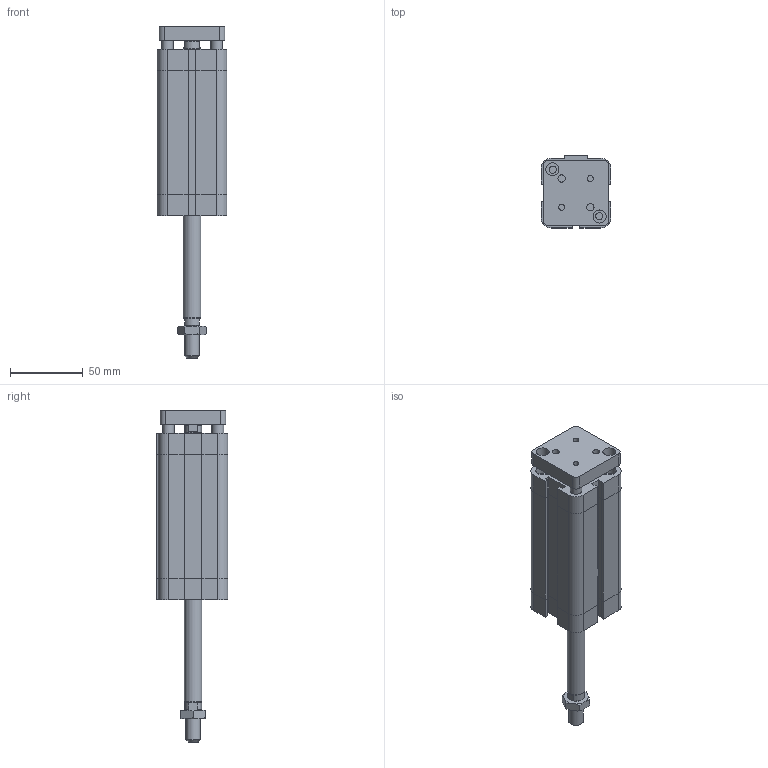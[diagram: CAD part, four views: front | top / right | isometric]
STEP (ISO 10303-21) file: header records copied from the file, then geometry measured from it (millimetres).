
FILE_DESCRIPTION((''),'2;1');
FILE_NAME('I:\Area Tecnica\Disegni\VARIE-3D\Componenti\EUROPE\15##_###_####_09_#\1581_32_0070_09_1.iam.stp','2009-04-20T15:45:00',(''),(''),'Autodesk Inventor 2009','Autodesk Inventor 2009','');
FILE_SCHEMA(('AUTOMOTIVE_DESIGN { 1 0 10303 214 1 1 1 1 }'));
Length unit declared in the file: millimetre
Products named in the file (4): 1581_32_0070_09_1; 1581_32_0070_08_1_C; 1561_32_0070_09_1_SA; DBFM10
Assembly tree (3 placements, depth 2):
  1581_32_0070_09_1
    1581_32_0070_08_1_C
    1561_32_0070_09_1_SA
    DBFM10
Bounding box: 48 x 49.5 x 228.5 mm (x, y, z)
Volume: 272762.3 mm3; surface area: 58640.5 mm2
Topology: 3 solids, 3 shells, 209 faces, 470 edges, 287 vertices
Faces by surface type: plane 120, bspline 45, cylinder 23, cone 21
Full cylindrical faces by diameter (mm): 8 x2, 8.8 x1, 10 x1, 11.7 x2, 12 x1
Entity records: 5963 total; most frequent: CARTESIAN_POINT 1453, DIRECTION 838, ORIENTED_EDGE 834, EDGE_CURVE 417, AXIS2_PLACEMENT_3D 282, EDGE_LOOP 282, VECTOR 274, LINE 274
